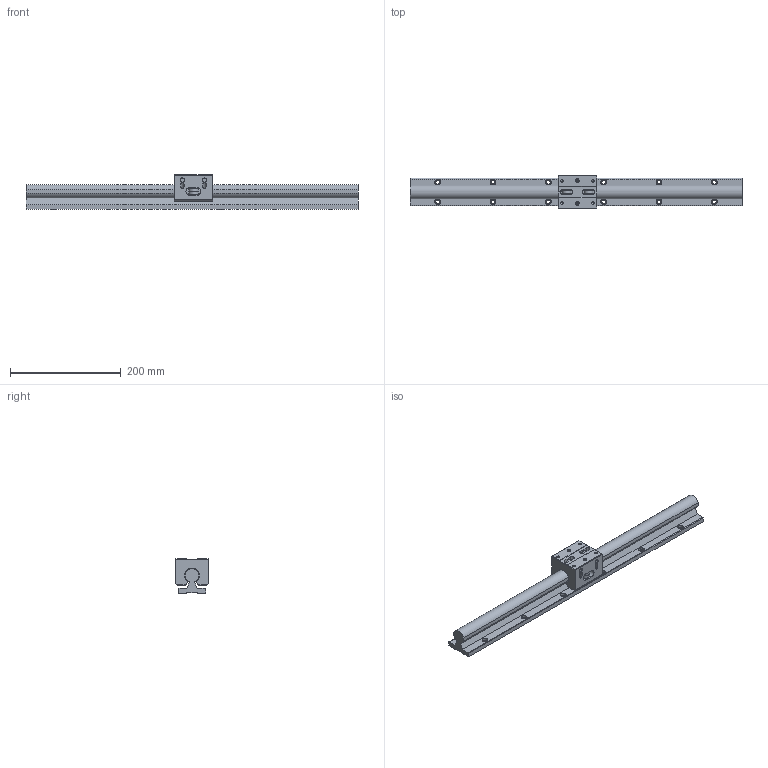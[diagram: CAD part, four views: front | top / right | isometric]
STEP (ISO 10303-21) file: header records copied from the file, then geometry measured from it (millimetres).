
FILE_DESCRIPTION((''),'2;1');
FILE_NAME('D:\製品 (図面)\カタログ用3D\リニアガイド関連\STEP形式\LTG\LTG25.stp','2010-06-02T16:06:25',('Tsuchiya'),(''),'Autodesk Inventor 10','Autodesk Inventor 10','');
FILE_SCHEMA(('AUTOMOTIVE_DESIGN { 1 0 10303 214 1 1 1 1 }'));
Length unit declared in the file: millimetre
Products named in the file (3): LTG25; LTG251; LTG252
Assembly tree (2 placements, depth 2):
  LTG25
    LTG251
    LTG252
Bounding box: 600 x 60 x 62 mm (x, y, z)
Volume: 776651.2 mm3; surface area: 154585.9 mm2
Topology: 2 solids, 2 shells, 299 faces, 695 edges, 450 vertices
Faces by surface type: bspline 139, plane 93, cylinder 43, cone 20, torus 4
Full cylindrical faces by diameter (mm): 4.917 x2, 5 x4, 5.5 x4, 6.5 x4, 8 x6, 16 x3, 17 x2
Entity records: 9323 total; most frequent: CARTESIAN_POINT 3518, ORIENTED_EDGE 1078, DIRECTION 1033, EDGE_CURVE 539, EDGE_LOOP 511, VERTEX_POINT 416, AXIS2_PLACEMENT_3D 395, FACE_OUTER_BOUND 299
